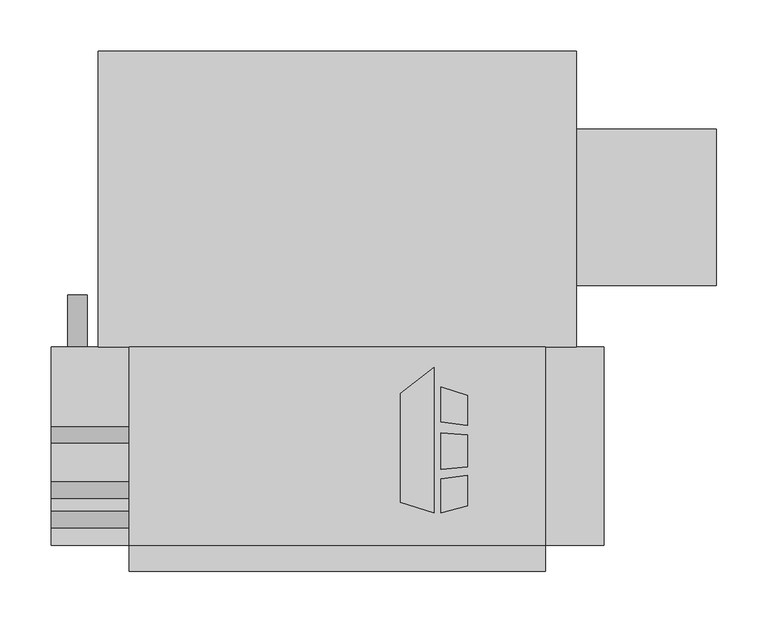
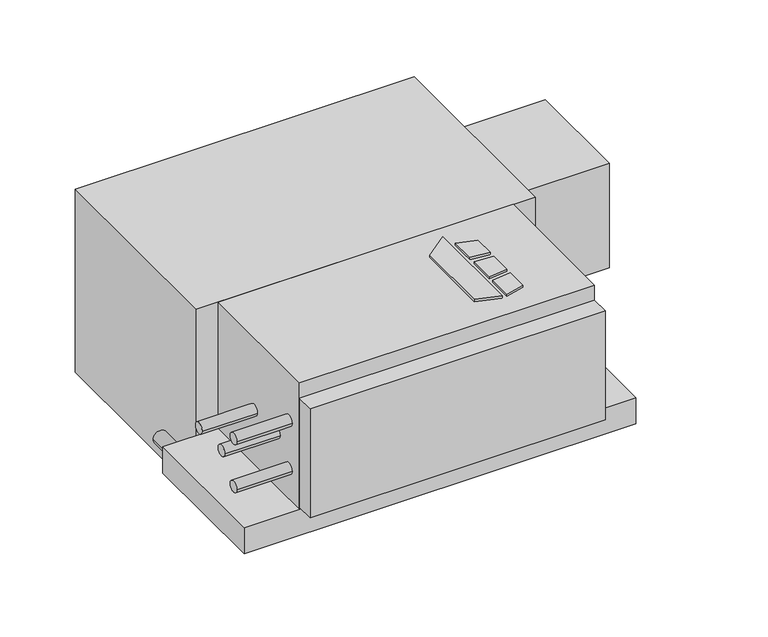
"""IFC4 building model written with IfcOpenShell, lengths in millimetres: proxy geometry, Concealed_Horizontal_Fan_Coil_Unit_With_Plenum_-_CPY_-_IEC_-_4-Pipe_LH_2022 : Size 02 - 277v/60Hz/1Ph - 4/1 Coil."""

from ifc_helpers import new_model, si_unit, point, frame, frame_2d, origin, origin_with_axes, place, context, project, spatial, polyline, circle_curve, trimmed, segment, composite_curve, outline, extrude, source, transform, mapped, element, save


def mechanical_equipment_4876a667(model_context):
    return source(origin(), model_context, "Body", "SweptSolid", [
        extrude(outline(polyline([(214.0019761, -186.6953476), (246.5602728, -161.2580184), (246.5602728, -303.2125), (214.0019761, -292.9929201), (214.0019761, -186.6953476)])), origin_with_axes(), (0.0, 0.0, 1.0), 3.175),
        extrude(outline(polyline([(253.3186058, -214.567352), (253.3186058, -180.0874379), (279.4, -188.2740115), (279.4, -217.7697446), (253.3186058, -214.567352)])), origin_with_axes(), (0.0, 0.0, 1.0), 3.175),
        extrude(outline(polyline([(279.4, -296.2240115), (253.3186058, -303.2125), (253.3186058, -269.9911996), (279.4, -266.4493564), (279.4, -296.2240115)])), origin_with_axes(), (0.0, 0.0, 1.0), 3.175),
        extrude(outline(polyline([(279.4, -226.8513277), (279.4, -258.101483), (253.3186058, -260.842748), (253.3186058, -224.9850378), (279.4, -226.8513277)])), origin_with_axes(), (0.0, 0.0, 1.0), 3.175),
        extrude(outline(composite_curve([segment(trimmed(circle_curve(frame_2d((-209.55, -101.6)), 9.525), [point((-209.55, -111.125))], [point((-209.55, -92.075))], False, "CARTESIAN"), True, "CONTINUOUS"), segment(trimmed(circle_curve(frame_2d((-209.55, -101.6)), 9.525), [point((-209.55, -92.075))], [point((-209.55, -111.125))], False, "CARTESIAN"), True, "CONTINUOUS")], self_intersect=False)), frame((0.0, -141.2875, 0.0), z_axis=(0.0, 1.0, 0.0), x_axis=(0.0, 0.0, 1.0)), (0.0, 0.0, 1.0), 50.8),
        extrude(outline(composite_curve([segment(trimmed(circle_curve(frame_2d((-309.5625, -69.85)), 7.9375), [point((-301.625, -69.85))], [point((-317.5, -69.85))], False, "CARTESIAN"), True, "CONTINUOUS"), segment(trimmed(circle_curve(frame_2d((-309.5625, -69.85)), 7.9375), [point((-317.5, -69.85))], [point((-301.625, -69.85))], False, "CARTESIAN"), True, "CONTINUOUS")], self_intersect=False)), frame((-127.0, 0.0, 0.0), z_axis=(1.0, 0.0, 0.0), x_axis=(0.0, 1.0, 0.0)), (0.0, 0.0, 1.0), 76.2),
        extrude(outline(composite_curve([segment(trimmed(circle_curve(frame_2d((-309.5625, -139.7)), 7.9375), [point((-301.625, -139.7))], [point((-317.5, -139.7))], False, "CARTESIAN"), True, "CONTINUOUS"), segment(trimmed(circle_curve(frame_2d((-309.5625, -139.7)), 7.9375), [point((-317.5, -139.7))], [point((-301.625, -139.7))], False, "CARTESIAN"), True, "CONTINUOUS")], self_intersect=False)), frame((-127.0, 0.0, 0.0), z_axis=(1.0, 0.0, 0.0), x_axis=(0.0, 1.0, 0.0)), (0.0, 0.0, 1.0), 76.2),
        extrude(outline(composite_curve([segment(trimmed(circle_curve(frame_2d((-227.0125, -104.775)), 7.9375), [point((-219.075, -104.775))], [point((-234.95, -104.775))], False, "CARTESIAN"), True, "CONTINUOUS"), segment(trimmed(circle_curve(frame_2d((-227.0125, -104.775)), 7.9375), [point((-234.95, -104.775))], [point((-219.075, -104.775))], False, "CARTESIAN"), True, "CONTINUOUS")], self_intersect=False)), frame((-127.0, 0.0, 0.0), z_axis=(1.0, 0.0, 0.0), x_axis=(0.0, 1.0, 0.0)), (0.0, 0.0, 1.0), 76.2),
        extrude(outline(composite_curve([segment(trimmed(circle_curve(frame_2d((-280.9875, -104.775)), 7.9375), [point((-273.05, -104.775))], [point((-288.925, -104.775))], False, "CARTESIAN"), True, "CONTINUOUS"), segment(trimmed(circle_curve(frame_2d((-280.9875, -104.775)), 7.9375), [point((-288.925, -104.775))], [point((-273.05, -104.775))], False, "CARTESIAN"), True, "CONTINUOUS")], self_intersect=False)), frame((-127.0, 0.0, 0.0), z_axis=(1.0, 0.0, 0.0), x_axis=(0.0, 1.0, 0.0)), (0.0, 0.0, 1.0), 76.2),
        extrude(outline(polyline([(355.6, -334.9625), (355.6, -360.3625), (-50.8, -360.3625), (-50.8, -334.9625), (355.6, -334.9625)])), frame((0.0, 0.0, -180.975), z_axis=(0.0, 0.0, 1.0), x_axis=(1.0, 0.0, 0.0)), (0.0, 0.0, 1.0), 158.75),
        extrude(outline(polyline([(355.6, -334.9625), (-50.8, -334.9625), (-50.8, -141.2875), (355.6, -141.2875), (355.6, -334.9625)])), frame((0.0, 0.0, -184.15), z_axis=(0.0, 0.0, 1.0), x_axis=(1.0, 0.0, 0.0)), (0.0, 0.0, 1.0), 184.15),
        extrude(outline(polyline([(412.75, -141.2875), (412.75, -334.9625), (-127.0, -334.9625), (-127.0, -141.2875), (412.75, -141.2875)])), frame((0.0, 0.0, -222.25), z_axis=(0.0, 0.0, 1.0), x_axis=(1.0, 0.0, 0.0)), (0.0, 0.0, 1.0), 38.1),
        extrude(outline(polyline([(522.2875, 71.4375), (522.2875, -80.9625), (385.7625, -80.9625), (385.7625, 71.4375), (522.2875, 71.4375)])), frame((0.0, 0.0, -187.325), z_axis=(0.0, 0.0, 1.0), x_axis=(1.0, 0.0, 0.0)), (0.0, 0.0, 1.0), 152.4),
        extrude(outline(polyline([(-80.9625, 147.6375), (385.7625, 147.6375), (385.7625, -141.2875), (-80.9625, -141.2875), (-80.9625, 147.6375)])), frame((0.0, 0.0, -266.7), z_axis=(0.0, 0.0, 1.0), x_axis=(1.0, 0.0, 0.0)), (0.0, 0.0, 1.0), 266.7),
    ])


if __name__ == "__main__":
    model = new_model("IFC4")
    model_context = context("Model", 3, world=origin())
    ifc_project = project(units=[si_unit("LENGTHUNIT", "METRE", prefix="MILLI")], contexts=[model_context])
    site = spatial("IfcSite", under=ifc_project)
    building = spatial("IfcBuilding", under=site)
    placement = place(None, origin())
    mechanical_equipment_shape = mechanical_equipment_4876a667(model_context)
    element("IfcBuildingElementProxy", 1, Name="Concealed_Horizontal_Fan_Coil_Unit_With_Plenum_-_CPY_-_IEC_-_4-Pipe_LH_2022 : Size 02 - 277v/60Hz/1Ph - 4/1 Coil", ObjectType="Concealed_Horizontal_Fan_Coil_Unit_With_Plenum_-_CPY_-_IEC_-_4-Pipe_LH_2022 : Size 02 - 277v/60Hz/1Ph - 4/1 Coil", at=placement, inside=building, context=model_context, shape_type="MappedRepresentation", body=[
        mapped(mechanical_equipment_shape, transform((0.0, 0.0, 0.0), x_axis=(1.0, 0.0, 0.0), y_axis=(0.0, 1.0, 0.0), z_axis=(0.0, 0.0, 1.0))),
    ])
    save(model, "model.ifc")
